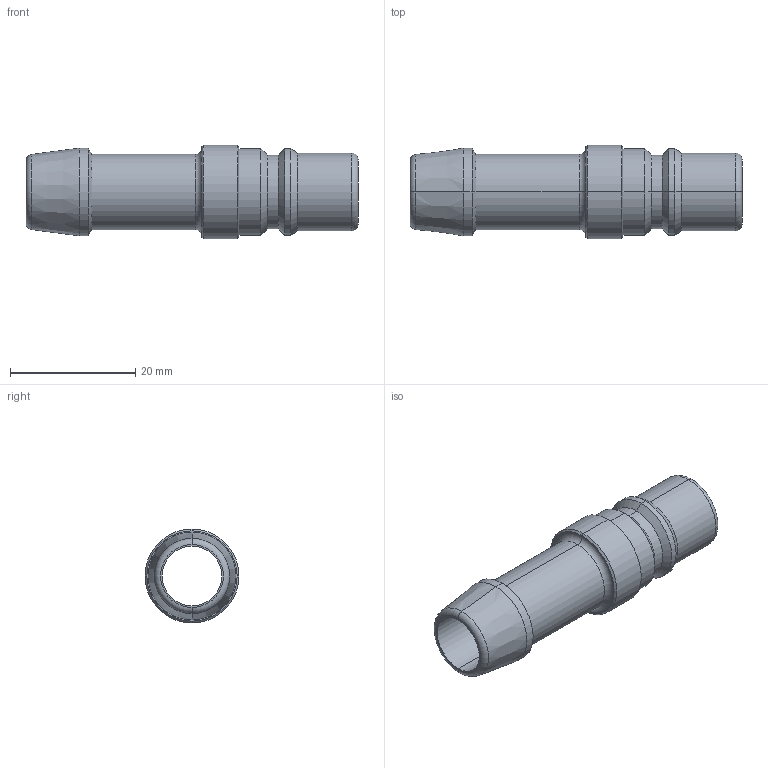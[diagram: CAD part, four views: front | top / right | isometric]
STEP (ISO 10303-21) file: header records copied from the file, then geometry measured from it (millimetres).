
FILE_DESCRIPTION (( 'STEP AP203' ), '1' );
FILE_NAME ('101-09-HU-12.STEP', '2021-10-21T14:21:27', ( '' ), ( '' ), 'SwSTEP 2.0', 'SolidWorks 2018', '' );
FILE_SCHEMA (( 'CONFIG_CONTROL_DESIGN' ));
Length unit declared in the file: millimetre
Products named in the file (1): 101-09-HU-12
Bounding box: 53 x 15 x 15 mm (x, y, z)
Volume: 3115.4 mm3; surface area: 3903.8 mm2
Topology: 1 solids, 1 shells, 39 faces, 78 edges, 42 vertices
Faces by surface type: cylinder 16, cone 14, torus 6, plane 3
Entity records: 1081 total; most frequent: DIRECTION 206, CARTESIAN_POINT 160, ORIENTED_EDGE 156, AXIS2_PLACEMENT_3D 88, EDGE_CURVE 78, CIRCLE 48, EDGE_LOOP 42, VERTEX_POINT 42
